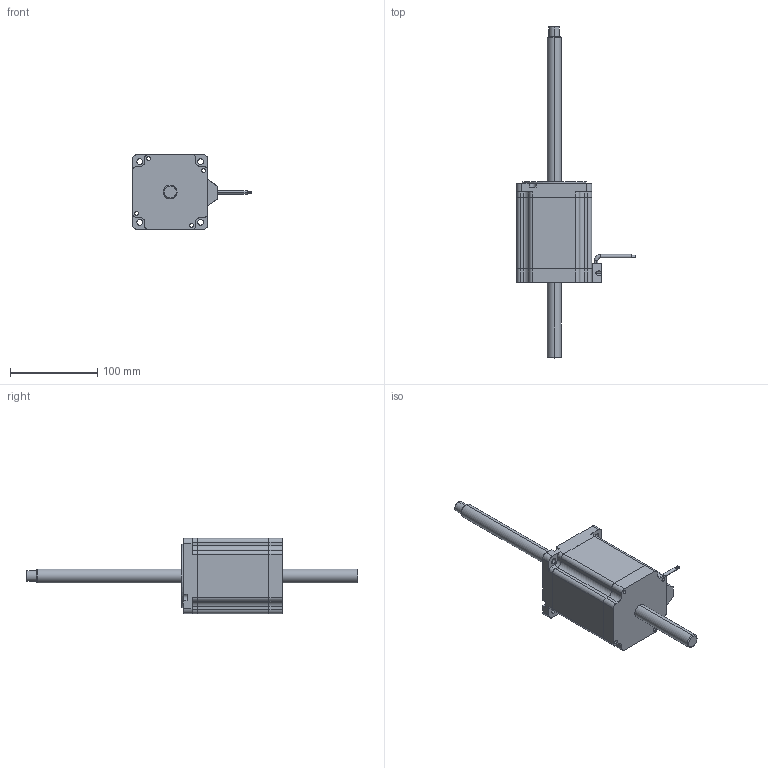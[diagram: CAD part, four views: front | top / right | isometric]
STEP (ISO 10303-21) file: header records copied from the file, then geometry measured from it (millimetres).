
FILE_DESCRIPTION (( 'STEP AP203' ), '1' );
FILE_NAME ('86N2114-3.175-6-4-380-001.STEP', '2020-09-15T06:08:08', ( '' ), ( '' ), 'SwSTEP 2.0', 'SolidWorks 2017', '' );
FILE_SCHEMA (( 'CONFIG_CONTROL_DESIGN' ));
Length unit declared in the file: millimetre
Products named in the file (1): 86N2114-3.175-6-4-380-001
Bounding box: 136 x 380 x 86 mm (x, y, z)
Volume: 816006.3 mm3; surface area: 79215.8 mm2
Topology: 2 solids, 2 shells, 222 faces, 587 edges, 383 vertices
Faces by surface type: cylinder 112, plane 89, cone 11, torus 10
Entity records: 7093 total; most frequent: DIRECTION 1284, CARTESIAN_POINT 1205, ORIENTED_EDGE 1174, EDGE_CURVE 587, AXIS2_PLACEMENT_3D 478, VERTEX_POINT 383, LINE 328, VECTOR 328
